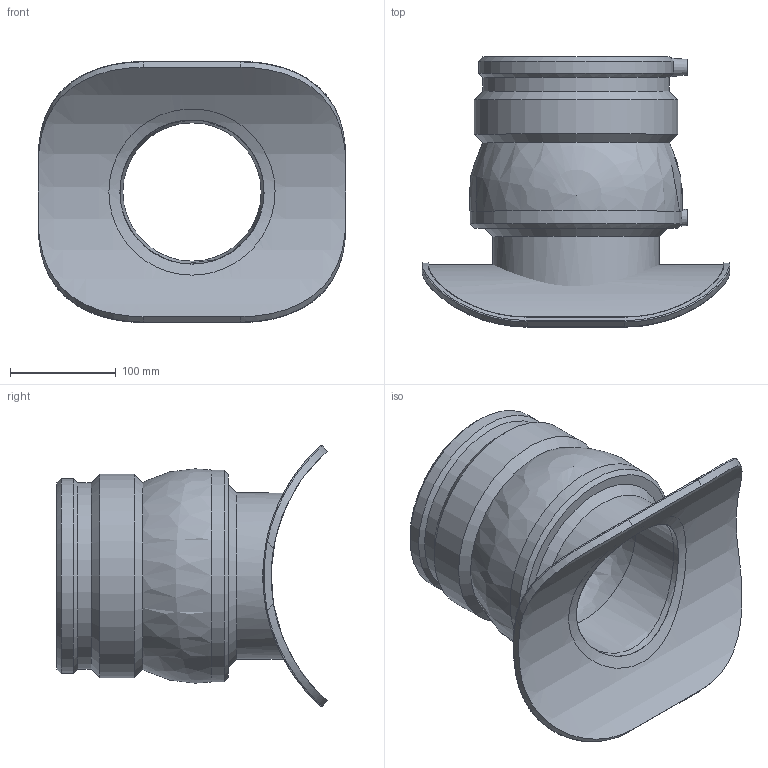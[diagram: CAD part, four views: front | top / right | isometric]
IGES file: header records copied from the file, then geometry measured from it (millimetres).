
Global section: file name: 475804315160.ipt; native system: Autodesk Inventor 2015; preprocessor: unknown; author: Кирилл,,11,0; organization: 20170830.161326; date: 20171106.093458; units: millimetre
Bounding box: 290 x 254.75 x 246.18 mm (x, y, z)
Volume: 2457603.7 mm3; surface area: 370194.5 mm2
Topology: 2 solids, 2 shells, 69 faces, 162 edges, 104 vertices
Faces by surface type: plane 17, cylinder 17, revolution 17, bspline 9, cone 8, sphere 1
Full cylindrical faces by diameter (mm): 4 x2, 156.8 x1, 176 x1, 192 x1
